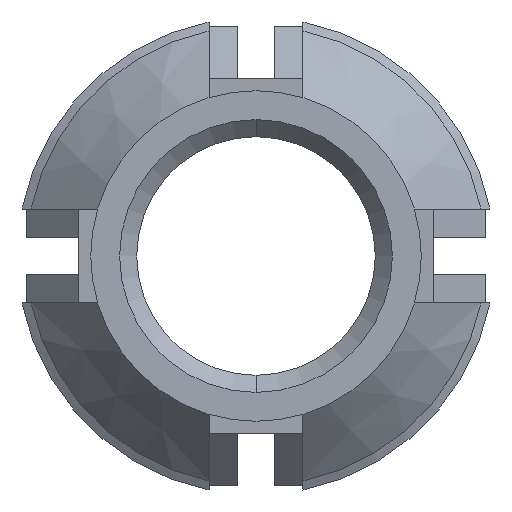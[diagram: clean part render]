
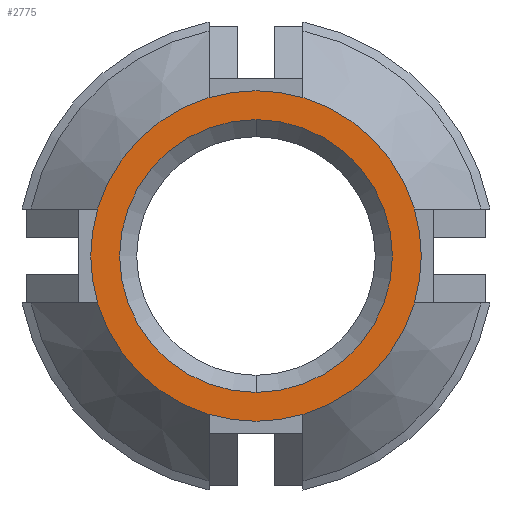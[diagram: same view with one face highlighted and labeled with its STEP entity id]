
A CAD part, front view. The second image highlights one B-rep face of the part: STEP entity #2775.
In plain terms, the highlighted planar face has unit normal (0, -1, 0).
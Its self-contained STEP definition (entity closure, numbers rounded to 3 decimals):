
#31 = ORIENTED_EDGE ( 'NONE', *, *, #2546, .T. ) ;
#146 = DIRECTION ( 'NONE',  ( 0., 1., 0. ) ) ;
#164 = CIRCLE ( 'NONE', #818, 4.396 ) ;
#189 = DIRECTION ( 'NONE',  ( 0., 0., 1. ) ) ;
#193 = CARTESIAN_POINT ( 'NONE',  ( 4.215, -9.398, 1.25 ) ) ;
#278 = PLANE ( 'NONE',  #2173 ) ;
#309 = AXIS2_PLACEMENT_3D ( 'NONE', #3828, #146, #189 ) ;
#377 = ORIENTED_EDGE ( 'NONE', *, *, #3286, .T. ) ;
#450 = CARTESIAN_POINT ( 'NONE',  ( 4.215, -9.398, -1.25 ) ) ;
#506 = DIRECTION ( 'NONE',  ( 0., 0., 1. ) ) ;
#528 = CARTESIAN_POINT ( 'NONE',  ( 0., -9.398, 0. ) ) ;
#535 = VERTEX_POINT ( 'NONE', #2924 ) ;
#541 = CARTESIAN_POINT ( 'NONE',  ( 0., -9.398, 0. ) ) ;
#602 = VERTEX_POINT ( 'NONE', #3858 ) ;
#687 = CIRCLE ( 'NONE', #2949, 4.396 ) ;
#707 = CARTESIAN_POINT ( 'NONE',  ( -1.25, -9.398, -4.215 ) ) ;
#734 = CARTESIAN_POINT ( 'NONE',  ( 0., -9.398, 3.629 ) ) ;
#764 = ORIENTED_EDGE ( 'NONE', *, *, #2510, .T. ) ;
#770 = ORIENTED_EDGE ( 'NONE', *, *, #3527, .T. ) ;
#818 = AXIS2_PLACEMENT_3D ( 'NONE', #541, #1734, #3598 ) ;
#892 = DIRECTION ( 'NONE',  ( 0., 0., 1. ) ) ;
#915 = CARTESIAN_POINT ( 'NONE',  ( 0., -9.398, 0. ) ) ;
#932 = VERTEX_POINT ( 'NONE', #1139 ) ;
#944 = AXIS2_PLACEMENT_3D ( 'NONE', #1154, #1770, #892 ) ;
#946 = EDGE_CURVE ( 'NONE', #2964, #3423, #687, .T. ) ;
#1139 = CARTESIAN_POINT ( 'NONE',  ( -1.25, -9.398, 4.215 ) ) ;
#1154 = CARTESIAN_POINT ( 'NONE',  ( 0., -9.398, 0. ) ) ;
#1179 = DIRECTION ( 'NONE',  ( 0., 0., 1. ) ) ;
#1261 = CIRCLE ( 'NONE', #944, 4.396 ) ;
#1316 = VERTEX_POINT ( 'NONE', #193 ) ;
#1431 = DIRECTION ( 'NONE',  ( 0., -1., 0. ) ) ;
#1479 = CARTESIAN_POINT ( 'NONE',  ( 0., -9.398, 0. ) ) ;
#1511 = CARTESIAN_POINT ( 'NONE',  ( 0., -9.398, 0. ) ) ;
#1640 = VERTEX_POINT ( 'NONE', #734 ) ;
#1677 = DIRECTION ( 'NONE',  ( 0., 0., 1. ) ) ;
#1695 = ORIENTED_EDGE ( 'NONE', *, *, #2715, .T. ) ;
#1734 = DIRECTION ( 'NONE',  ( 0., -1., 0. ) ) ;
#1770 = DIRECTION ( 'NONE',  ( 0., -1., 0. ) ) ;
#1800 = ORIENTED_EDGE ( 'NONE', *, *, #2205, .T. ) ;
#1829 = EDGE_CURVE ( 'NONE', #602, #1984, #1261, .T. ) ;
#1834 = ORIENTED_EDGE ( 'NONE', *, *, #2331, .T. ) ;
#1867 = DIRECTION ( 'NONE',  ( 0., 1., 0. ) ) ;
#1889 = EDGE_LOOP ( 'NONE', ( #1834, #770 ) ) ;
#1936 = CARTESIAN_POINT ( 'NONE',  ( -4.215, -9.398, -1.25 ) ) ;
#1938 = ORIENTED_EDGE ( 'NONE', *, *, #946, .T. ) ;
#1984 = VERTEX_POINT ( 'NONE', #1936 ) ;
#1994 = CARTESIAN_POINT ( 'NONE',  ( 0., -9.398, 0. ) ) ;
#2119 = CARTESIAN_POINT ( 'NONE',  ( 0., -9.398, 0. ) ) ;
#2173 = AXIS2_PLACEMENT_3D ( 'NONE', #1511, #2745, #3742 ) ;
#2205 = EDGE_CURVE ( 'NONE', #932, #602, #2940, .T. ) ;
#2331 = EDGE_CURVE ( 'NONE', #3749, #1640, #3921, .T. ) ;
#2436 = AXIS2_PLACEMENT_3D ( 'NONE', #915, #2785, #1179 ) ;
#2446 = AXIS2_PLACEMENT_3D ( 'NONE', #2632, #3562, #1677 ) ;
#2485 = DIRECTION ( 'NONE',  ( -1., 0., 0. ) ) ;
#2509 = CIRCLE ( 'NONE', #2446, 4.396 ) ;
#2510 = EDGE_CURVE ( 'NONE', #1316, #535, #164, .T. ) ;
#2546 = EDGE_CURVE ( 'NONE', #3931, #1316, #2813, .T. ) ;
#2565 = EDGE_LOOP ( 'NONE', ( #3029, #2658, #1938, #1695, #31, #764, #377, #1800 ) ) ;
#2632 = CARTESIAN_POINT ( 'NONE',  ( 0., -9.398, 0. ) ) ;
#2658 = ORIENTED_EDGE ( 'NONE', *, *, #3944, .T. ) ;
#2694 = CIRCLE ( 'NONE', #3085, 4.396 ) ;
#2715 = EDGE_CURVE ( 'NONE', #3423, #3931, #3660, .T. ) ;
#2745 = DIRECTION ( 'NONE',  ( 0., 1., 0. ) ) ;
#2752 = AXIS2_PLACEMENT_3D ( 'NONE', #1479, #3278, #506 ) ;
#2775 = ADVANCED_FACE ( 'NONE', ( #3640, #3661 ), #278, .F. ) ;
#2785 = DIRECTION ( 'NONE',  ( 0., -1., 0. ) ) ;
#2813 = CIRCLE ( 'NONE', #2875, 4.396 ) ;
#2816 = CARTESIAN_POINT ( 'NONE',  ( 0., -9.398, -3.629 ) ) ;
#2875 = AXIS2_PLACEMENT_3D ( 'NONE', #1994, #1431, #3011 ) ;
#2924 = CARTESIAN_POINT ( 'NONE',  ( 1.25, -9.398, 4.215 ) ) ;
#2940 = CIRCLE ( 'NONE', #2752, 4.396 ) ;
#2949 = AXIS2_PLACEMENT_3D ( 'NONE', #528, #3217, #2485 ) ;
#2964 = VERTEX_POINT ( 'NONE', #707 ) ;
#3011 = DIRECTION ( 'NONE',  ( 0., 0., -1. ) ) ;
#3029 = ORIENTED_EDGE ( 'NONE', *, *, #1829, .T. ) ;
#3040 = CARTESIAN_POINT ( 'NONE',  ( 0., -9.398, 0. ) ) ;
#3085 = AXIS2_PLACEMENT_3D ( 'NONE', #2119, #4009, #3353 ) ;
#3098 = DIRECTION ( 'NONE',  ( 0., 0., 1. ) ) ;
#3146 = CARTESIAN_POINT ( 'NONE',  ( 1.25, -9.398, -4.215 ) ) ;
#3217 = DIRECTION ( 'NONE',  ( 0., -1., 0. ) ) ;
#3278 = DIRECTION ( 'NONE',  ( 0., -1., 0. ) ) ;
#3286 = EDGE_CURVE ( 'NONE', #535, #932, #2694, .T. ) ;
#3353 = DIRECTION ( 'NONE',  ( 1., 0., 0. ) ) ;
#3423 = VERTEX_POINT ( 'NONE', #3146 ) ;
#3456 = AXIS2_PLACEMENT_3D ( 'NONE', #3040, #1867, #3098 ) ;
#3527 = EDGE_CURVE ( 'NONE', #1640, #3749, #3529, .T. ) ;
#3529 = CIRCLE ( 'NONE', #309, 3.629 ) ;
#3562 = DIRECTION ( 'NONE',  ( 0., -1., 0. ) ) ;
#3598 = DIRECTION ( 'NONE',  ( 0., 0., 1. ) ) ;
#3640 = FACE_BOUND ( 'NONE', #1889, .T. ) ;
#3660 = CIRCLE ( 'NONE', #2436, 4.396 ) ;
#3661 = FACE_OUTER_BOUND ( 'NONE', #2565, .T. ) ;
#3742 = DIRECTION ( 'NONE',  ( 0., 0., 1. ) ) ;
#3749 = VERTEX_POINT ( 'NONE', #2816 ) ;
#3828 = CARTESIAN_POINT ( 'NONE',  ( 0., -9.398, 0. ) ) ;
#3858 = CARTESIAN_POINT ( 'NONE',  ( -4.215, -9.398, 1.25 ) ) ;
#3921 = CIRCLE ( 'NONE', #3456, 3.629 ) ;
#3931 = VERTEX_POINT ( 'NONE', #450 ) ;
#3944 = EDGE_CURVE ( 'NONE', #1984, #2964, #2509, .T. ) ;
#4009 = DIRECTION ( 'NONE',  ( 0., -1., 0. ) ) ;
